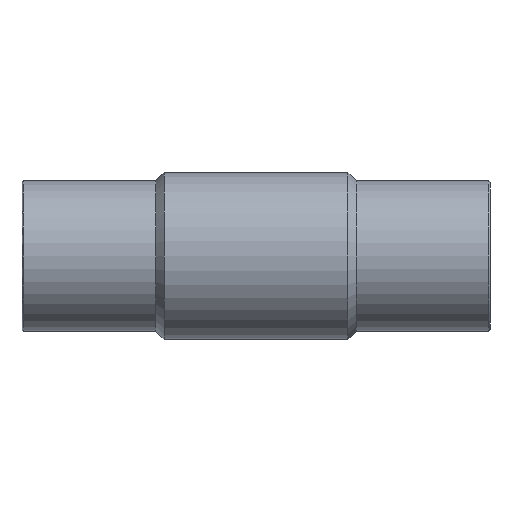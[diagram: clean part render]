
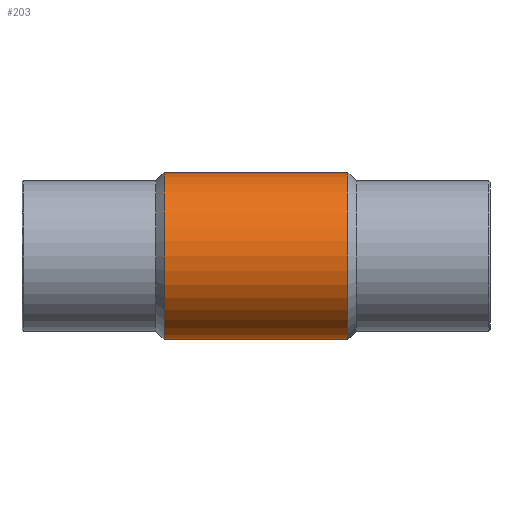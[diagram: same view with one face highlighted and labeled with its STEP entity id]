
A CAD part, front view. The second image highlights one B-rep face of the part: STEP entity #203.
In plain terms, the highlighted cylindrical face has radius 50 mm (diameter 100 mm), a partial arc.
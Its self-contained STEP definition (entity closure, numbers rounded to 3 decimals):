
#4 = AXIS2_PLACEMENT_3D ( 'NONE', #467, #481, #462 ) ;
#16 = VECTOR ( 'NONE', #688, 1000. ) ;
#17 = VECTOR ( 'NONE', #685, 1000. ) ;
#91 = EDGE_CURVE ( 'NONE', #1107, #1108, #186, .T. ) ;
#92 = EDGE_CURVE ( 'NONE', #267, #1104, #154, .T. ) ;
#111 = EDGE_CURVE ( 'NONE', #1107, #1104, #690, .T. ) ;
#112 = EDGE_CURVE ( 'NONE', #1108, #267, #687, .T. ) ;
#137 = AXIS2_PLACEMENT_3D ( 'NONE', #878, #877, #876 ) ;
#154 = CIRCLE ( 'NONE', #137, 50. ) ;
#183 = AXIS2_PLACEMENT_3D ( 'NONE', #883, #882, #881 ) ;
#186 = CIRCLE ( 'NONE', #183, 50. ) ;
#203 = ADVANCED_FACE ( 'NONE', ( #468 ), #463, .T. ) ;
#267 = VERTEX_POINT ( 'NONE', #372 ) ;
#350 = CARTESIAN_POINT ( 'NONE',  ( 195., 0., 50. ) ) ;
#357 = CARTESIAN_POINT ( 'NONE',  ( 195., 0., -50. ) ) ;
#358 = CARTESIAN_POINT ( 'NONE',  ( 85., 0., -50. ) ) ;
#372 = CARTESIAN_POINT ( 'NONE',  ( 85., 0., 50. ) ) ;
#462 = DIRECTION ( 'NONE',  ( 0., 0., 1. ) ) ;
#463 = CYLINDRICAL_SURFACE ( 'NONE', #4, 50. ) ;
#467 = CARTESIAN_POINT ( 'NONE',  ( 200., 0., 0. ) ) ;
#468 = FACE_OUTER_BOUND ( 'NONE', #1029, .T. ) ;
#481 = DIRECTION ( 'NONE',  ( -1., 0., 0. ) ) ;
#685 = DIRECTION ( 'NONE',  ( -1., 0., 0. ) ) ;
#686 = CARTESIAN_POINT ( 'NONE',  ( 200., 0., 50. ) ) ;
#687 = LINE ( 'NONE', #686, #17 ) ;
#688 = DIRECTION ( 'NONE',  ( -1., 0., 0. ) ) ;
#689 = CARTESIAN_POINT ( 'NONE',  ( 200., 0., -50. ) ) ;
#690 = LINE ( 'NONE', #689, #16 ) ;
#876 = DIRECTION ( 'NONE',  ( 0., 0., -1. ) ) ;
#877 = DIRECTION ( 'NONE',  ( 1., 0., 0. ) ) ;
#878 = CARTESIAN_POINT ( 'NONE',  ( 85., 0., 0. ) ) ;
#881 = DIRECTION ( 'NONE',  ( 0., 0., -1. ) ) ;
#882 = DIRECTION ( 'NONE',  ( -1., 0., 0. ) ) ;
#883 = CARTESIAN_POINT ( 'NONE',  ( 195., 0., 0. ) ) ;
#1029 = EDGE_LOOP ( 'NONE', ( #1100, #1099, #1098, #1097 ) ) ;
#1097 = ORIENTED_EDGE ( 'NONE', *, *, #92, .T. ) ;
#1098 = ORIENTED_EDGE ( 'NONE', *, *, #112, .T. ) ;
#1099 = ORIENTED_EDGE ( 'NONE', *, *, #91, .T. ) ;
#1100 = ORIENTED_EDGE ( 'NONE', *, *, #111, .F. ) ;
#1104 = VERTEX_POINT ( 'NONE', #358 ) ;
#1107 = VERTEX_POINT ( 'NONE', #357 ) ;
#1108 = VERTEX_POINT ( 'NONE', #350 ) ;
